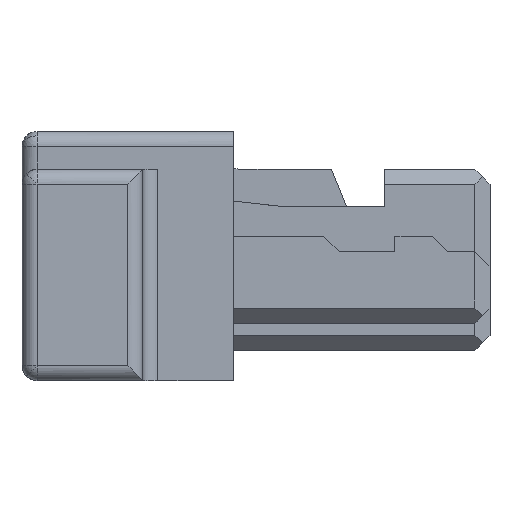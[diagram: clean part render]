
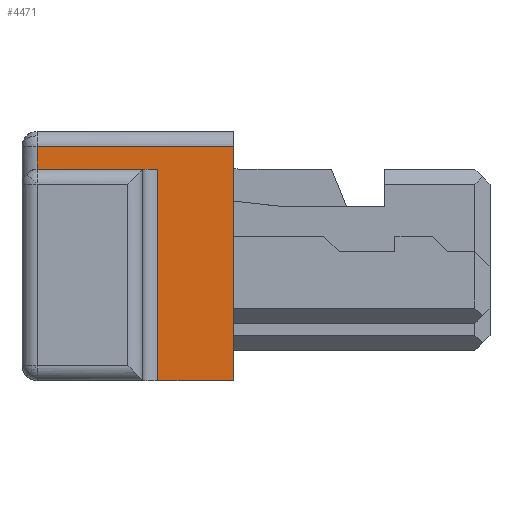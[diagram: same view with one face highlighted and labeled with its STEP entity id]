
A CAD part, front view. The second image highlights one B-rep face of the part: STEP entity #4471.
In plain terms, the highlighted planar face has unit normal (0, -1, 0).
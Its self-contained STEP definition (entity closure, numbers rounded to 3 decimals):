
#267=DIRECTION('',(0.,0.,1.));
#268=VECTOR('',#267,1.4);
#269=CARTESIAN_POINT('',(0.9,-6.8,-0.825));
#270=LINE('',#269,#268);
#271=DIRECTION('',(1.,0.,0.));
#272=VECTOR('',#271,0.5);
#273=CARTESIAN_POINT('',(0.9,-6.8,-0.825));
#274=LINE('',#273,#272);
#275=DIRECTION('',(1.,0.,0.));
#276=VECTOR('',#275,0.8);
#277=CARTESIAN_POINT('',(0.1,-6.8,0.575));
#278=LINE('',#277,#276);
#279=DIRECTION('',(0.,0.,1.));
#280=VECTOR('',#279,0.15);
#281=CARTESIAN_POINT('',(0.1,-6.8,0.575));
#282=LINE('',#281,#280);
#334=DIRECTION('',(1.,0.,0.));
#335=VECTOR('',#334,1.3);
#336=CARTESIAN_POINT('',(0.1,-6.8,0.725));
#337=LINE('',#336,#335);
#380=DIRECTION('',(0.,0.,-1.));
#381=VECTOR('',#380,1.55);
#382=CARTESIAN_POINT('',(1.4,-6.8,0.725));
#383=LINE('',#382,#381);
#3120=CARTESIAN_POINT('',(0.1,-6.8,0.575));
#3121=VERTEX_POINT('',#3120);
#3122=CARTESIAN_POINT('',(0.9,-6.8,0.575));
#3123=VERTEX_POINT('',#3122);
#3173=CARTESIAN_POINT('',(0.9,-6.8,-0.825));
#3174=VERTEX_POINT('',#3173);
#3175=CARTESIAN_POINT('',(0.1,-6.8,0.725));
#3176=CARTESIAN_POINT('',(1.4,-6.8,0.725));
#3177=VERTEX_POINT('',#3175);
#3178=VERTEX_POINT('',#3176);
#3179=CARTESIAN_POINT('',(1.4,-6.8,-0.825));
#3180=VERTEX_POINT('',#3179);
#4455=CARTESIAN_POINT('',(0.75,-6.8,-0.05));
#4456=DIRECTION('',(0.,1.,0.));
#4457=DIRECTION('',(-1.,0.,0.));
#4458=AXIS2_PLACEMENT_3D('',#4455,#4456,#4457);
#4459=PLANE('',#4458);
#4461=ORIENTED_EDGE('',*,*,#4460,.T.);
#4463=ORIENTED_EDGE('',*,*,#4462,.T.);
#4465=ORIENTED_EDGE('',*,*,#4464,.T.);
#4466=ORIENTED_EDGE('',*,*,#4428,.F.);
#4467=ORIENTED_EDGE('',*,*,#4449,.T.);
#4468=ORIENTED_EDGE('',*,*,#4052,.F.);
#4469=EDGE_LOOP('',(#4461,#4463,#4465,#4466,#4467,#4468));
#4470=FACE_OUTER_BOUND('',#4469,.F.);
#4471=ADVANCED_FACE('',(#4470),#4459,.F.);
#4052=EDGE_CURVE('',#3121,#3123,#278,.T.);
#4428=EDGE_CURVE('',#3174,#3180,#274,.T.);
#4449=EDGE_CURVE('',#3174,#3123,#270,.T.);
#4460=EDGE_CURVE('',#3121,#3177,#282,.T.);
#4462=EDGE_CURVE('',#3177,#3178,#337,.T.);
#4464=EDGE_CURVE('',#3178,#3180,#383,.T.);
